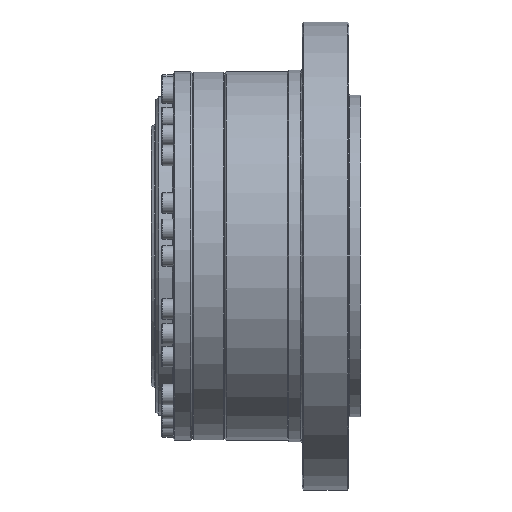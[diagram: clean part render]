
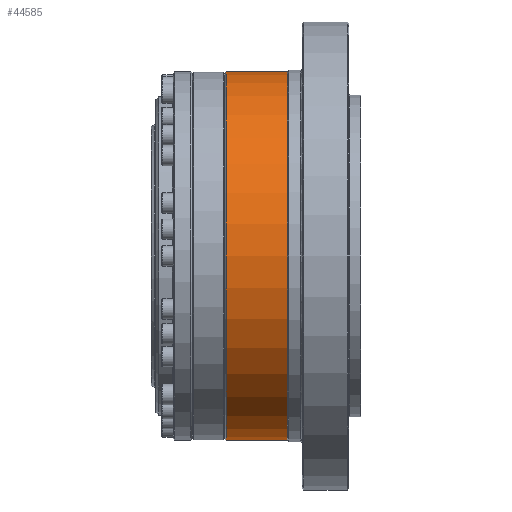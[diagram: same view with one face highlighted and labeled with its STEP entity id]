
A CAD part, front view. The second image highlights one B-rep face of the part: STEP entity #44585.
In plain terms, the highlighted cylindrical face has radius 63 mm (diameter 126 mm), a full revolution.
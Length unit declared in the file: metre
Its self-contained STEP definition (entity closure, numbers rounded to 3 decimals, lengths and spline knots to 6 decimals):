
#2866 = CIRCLE ( 'NONE', #19787, 0.063 ) ;
#5860 = DIRECTION ( 'NONE',  ( -1., 0., 0. ) ) ;
#5979 = CARTESIAN_POINT ( 'NONE',  ( -0.0014, 0., -0.063 ) ) ;
#7625 = ORIENTED_EDGE ( 'NONE', *, *, #17644, .T. ) ;
#9178 = DIRECTION ( 'NONE',  ( 0., 0., 1. ) ) ;
#9828 = EDGE_CURVE ( 'NONE', #40397, #40397, #43423, .T. ) ;
#16021 = CYLINDRICAL_SURFACE ( 'NONE', #34213, 0.063 ) ;
#16334 = DIRECTION ( 'NONE',  ( 1., 0., 0. ) ) ;
#16387 = EDGE_LOOP ( 'NONE', ( #7625 ) ) ;
#17644 = EDGE_CURVE ( 'NONE', #32179, #32179, #2866, .T. ) ;
#19192 = CARTESIAN_POINT ( 'NONE',  ( -0.0014, 0., 0. ) ) ;
#19568 = ORIENTED_EDGE ( 'NONE', *, *, #9828, .F. ) ;
#19787 = AXIS2_PLACEMENT_3D ( 'NONE', #40543, #16334, #9178 ) ;
#26818 = DIRECTION ( 'NONE',  ( 0., 0., -1. ) ) ;
#30270 = DIRECTION ( 'NONE',  ( 1., 0., 0. ) ) ;
#30942 = AXIS2_PLACEMENT_3D ( 'NONE', #19192, #30270, #26818 ) ;
#32179 = VERTEX_POINT ( 'NONE', #42787 ) ;
#34213 = AXIS2_PLACEMENT_3D ( 'NONE', #45010, #5860, #37867 ) ;
#35732 = EDGE_LOOP ( 'NONE', ( #19568 ) ) ;
#37867 = DIRECTION ( 'NONE',  ( 0., 0., 1. ) ) ;
#40397 = VERTEX_POINT ( 'NONE', #5979 ) ;
#40543 = CARTESIAN_POINT ( 'NONE',  ( -0.0224, 0., 0. ) ) ;
#40888 = FACE_OUTER_BOUND ( 'NONE', #16387, .T. ) ;
#42787 = CARTESIAN_POINT ( 'NONE',  ( -0.0224, 0., 0.063 ) ) ;
#43423 = CIRCLE ( 'NONE', #30942, 0.063 ) ;
#44585 = ADVANCED_FACE ( 'NONE', ( #40888, #44785 ), #16021, .T. ) ;
#44785 = FACE_OUTER_BOUND ( 'NONE', #35732, .T. ) ;
#45010 = CARTESIAN_POINT ( 'NONE',  ( -0.0261, 0., 0. ) ) ;
